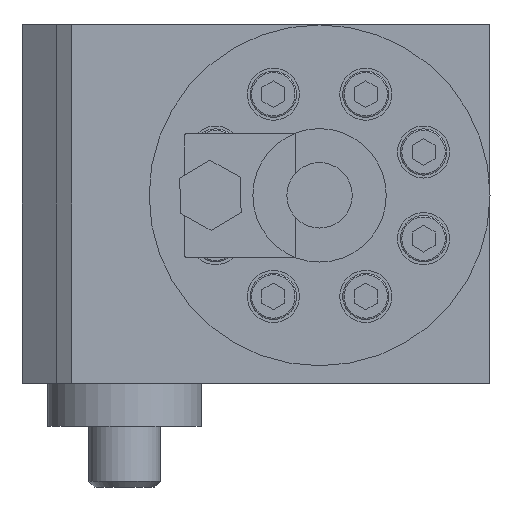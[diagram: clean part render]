
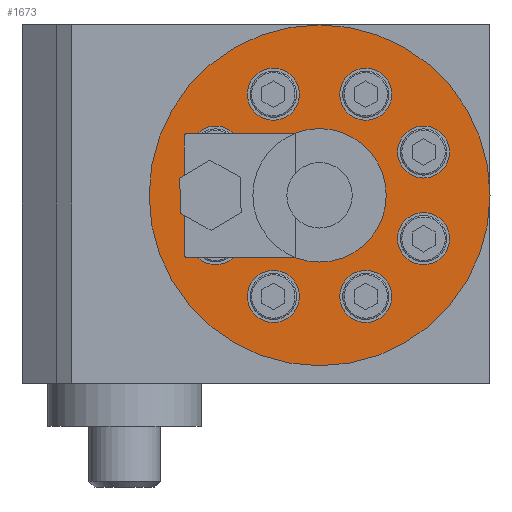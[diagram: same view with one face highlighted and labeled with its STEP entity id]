
A CAD part, left-side view. The second image highlights one B-rep face of the part: STEP entity #1673.
In plain terms, the highlighted planar face has unit normal (-1, 0, 0).
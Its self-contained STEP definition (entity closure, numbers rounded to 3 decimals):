
#1673=ADVANCED_FACE('',(#2979,#2980,#2981,#2982,#2983,#2984,#2985,#2986,
#2987),#2343,.F.);
#2343=PLANE('',#13202);
#2979=FACE_BOUND('',#3843,.T.);
#2980=FACE_BOUND('',#3844,.T.);
#2981=FACE_BOUND('',#3845,.T.);
#2982=FACE_BOUND('',#3846,.T.);
#2983=FACE_BOUND('',#3847,.T.);
#2984=FACE_BOUND('',#3848,.T.);
#2985=FACE_BOUND('',#3849,.T.);
#2986=FACE_BOUND('',#3850,.T.);
#2987=FACE_BOUND('',#3851,.T.);
#3843=EDGE_LOOP('',(#6304));
#3844=EDGE_LOOP('',(#6305));
#3845=EDGE_LOOP('',(#6306));
#3846=EDGE_LOOP('',(#6307));
#3847=EDGE_LOOP('',(#6308));
#3848=EDGE_LOOP('',(#6309));
#3849=EDGE_LOOP('',(#6310));
#3850=EDGE_LOOP('',(#6311));
#3851=EDGE_LOOP('',(#6312));
#4879=CIRCLE('',#13191,59.);
#4881=CIRCLE('',#13194,9.);
#4882=CIRCLE('',#13195,9.);
#4883=CIRCLE('',#13196,9.);
#4884=CIRCLE('',#13197,9.);
#4885=CIRCLE('',#13198,9.);
#4886=CIRCLE('',#13199,9.);
#4887=CIRCLE('',#13200,9.);
#4888=CIRCLE('',#13201,9.);
#6304=ORIENTED_EDGE('',*,*,#9958,.T.);
#6305=ORIENTED_EDGE('',*,*,#9959,.T.);
#6306=ORIENTED_EDGE('',*,*,#9960,.T.);
#6307=ORIENTED_EDGE('',*,*,#9961,.T.);
#6308=ORIENTED_EDGE('',*,*,#9962,.T.);
#6309=ORIENTED_EDGE('',*,*,#9963,.T.);
#6310=ORIENTED_EDGE('',*,*,#9964,.T.);
#6311=ORIENTED_EDGE('',*,*,#9965,.T.);
#6312=ORIENTED_EDGE('',*,*,#9956,.F.);
#8669=VERTEX_POINT('',#18864);
#8671=VERTEX_POINT('',#18869);
#8672=VERTEX_POINT('',#18871);
#8673=VERTEX_POINT('',#18873);
#8674=VERTEX_POINT('',#18875);
#8675=VERTEX_POINT('',#18877);
#8676=VERTEX_POINT('',#18879);
#8677=VERTEX_POINT('',#18881);
#8678=VERTEX_POINT('',#18883);
#9956=EDGE_CURVE('',#8669,#8669,#4879,.T.);
#9958=EDGE_CURVE('',#8671,#8671,#4881,.T.);
#9959=EDGE_CURVE('',#8672,#8672,#4882,.T.);
#9960=EDGE_CURVE('',#8673,#8673,#4883,.T.);
#9961=EDGE_CURVE('',#8674,#8674,#4884,.T.);
#9962=EDGE_CURVE('',#8675,#8675,#4885,.T.);
#9963=EDGE_CURVE('',#8676,#8676,#4886,.T.);
#9964=EDGE_CURVE('',#8677,#8677,#4887,.T.);
#9965=EDGE_CURVE('',#8678,#8678,#4888,.T.);
#13191=AXIS2_PLACEMENT_3D('',#18863,#15346,#15347);
#13194=AXIS2_PLACEMENT_3D('',#18868,#15352,#15353);
#13195=AXIS2_PLACEMENT_3D('',#18870,#15354,#15355);
#13196=AXIS2_PLACEMENT_3D('',#18872,#15356,#15357);
#13197=AXIS2_PLACEMENT_3D('',#18874,#15358,#15359);
#13198=AXIS2_PLACEMENT_3D('',#18876,#15360,#15361);
#13199=AXIS2_PLACEMENT_3D('',#18878,#15362,#15363);
#13200=AXIS2_PLACEMENT_3D('',#18880,#15364,#15365);
#13201=AXIS2_PLACEMENT_3D('',#18882,#15366,#15367);
#13202=AXIS2_PLACEMENT_3D('',#18884,#15368,#15369);
#15346=DIRECTION('',(1.,0.,0.));
#15347=DIRECTION('',(0.,0.,-1.));
#15352=DIRECTION('',(1.,0.,0.));
#15353=DIRECTION('',(0.,0.,1.));
#15354=DIRECTION('',(1.,0.,0.));
#15355=DIRECTION('',(0.,0.,1.));
#15356=DIRECTION('',(1.,0.,0.));
#15357=DIRECTION('',(0.,0.,1.));
#15358=DIRECTION('',(1.,0.,0.));
#15359=DIRECTION('',(0.,0.,1.));
#15360=DIRECTION('',(1.,0.,0.));
#15361=DIRECTION('',(0.,0.,1.));
#15362=DIRECTION('',(1.,0.,0.));
#15363=DIRECTION('',(0.,0.,1.));
#15364=DIRECTION('',(1.,0.,0.));
#15365=DIRECTION('',(0.,0.,1.));
#15366=DIRECTION('',(1.,0.,0.));
#15367=DIRECTION('',(0.,0.,1.));
#15368=DIRECTION('',(1.,0.,0.));
#15369=DIRECTION('',(0.,1.,0.));
#18863=CARTESIAN_POINT('',(-129.852,-23.396,65.));
#18864=CARTESIAN_POINT('',(-129.852,-23.396,6.));
#18868=CARTESIAN_POINT('',(-129.852,-7.396,30.));
#18869=CARTESIAN_POINT('',(-129.852,-7.396,39.));
#18870=CARTESIAN_POINT('',(-129.852,-7.396,100.));
#18871=CARTESIAN_POINT('',(-129.852,-7.396,109.));
#18872=CARTESIAN_POINT('',(-129.852,-39.396,100.));
#18873=CARTESIAN_POINT('',(-129.852,-39.396,109.));
#18874=CARTESIAN_POINT('',(-129.852,-39.396,30.));
#18875=CARTESIAN_POINT('',(-129.852,-39.396,39.));
#18876=CARTESIAN_POINT('',(-129.852,12.604,50.));
#18877=CARTESIAN_POINT('',(-129.852,12.604,59.));
#18878=CARTESIAN_POINT('',(-129.852,12.604,80.));
#18879=CARTESIAN_POINT('',(-129.852,12.604,89.));
#18880=CARTESIAN_POINT('',(-129.852,-59.396,80.));
#18881=CARTESIAN_POINT('',(-129.852,-59.396,89.));
#18882=CARTESIAN_POINT('',(-129.852,-59.396,50.));
#18883=CARTESIAN_POINT('',(-129.852,-59.396,59.));
#18884=CARTESIAN_POINT('',(-129.852,-23.396,65.));
